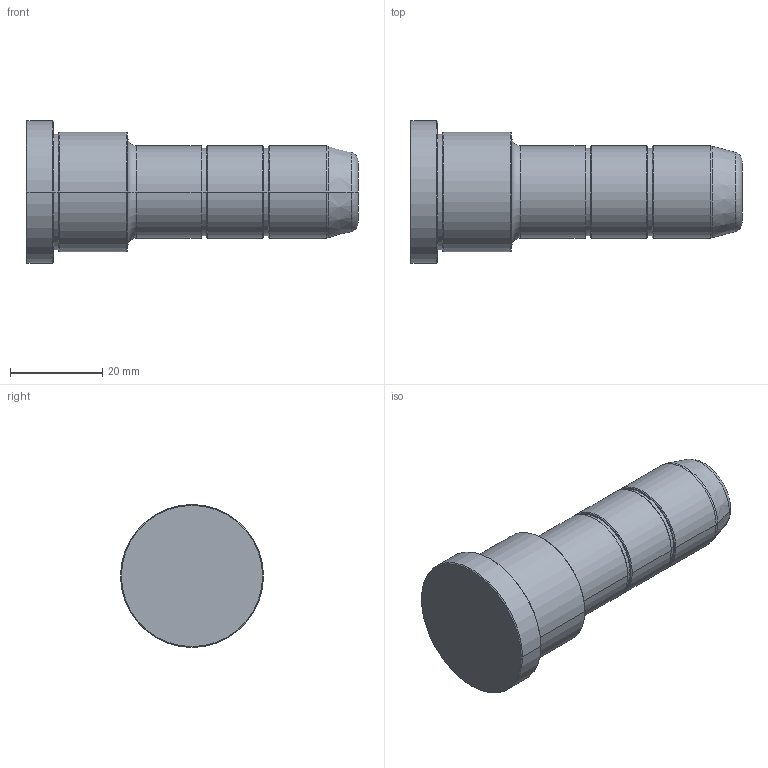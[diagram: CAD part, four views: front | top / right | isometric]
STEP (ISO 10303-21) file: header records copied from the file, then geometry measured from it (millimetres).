
FILE_DESCRIPTION (( 'STEP AP214' ), '1' );
FILE_NAME ('R01_022x20x050.STEP', '2015-03-05T14:03:14', ( 'TGL' ), ( '' ), 'SwSTEP 2.0', 'SolidWorks 2011', '' );
FILE_SCHEMA (( 'AUTOMOTIVE_DESIGN' ));
Length unit declared in the file: millimetre
Products named in the file (1): R01_022x20x050
Bounding box: 72 x 31 x 31 mm (x, y, z)
Volume: 28299.7 mm3; surface area: 6460.8 mm2
Topology: 1 solids, 1 shells, 49 faces, 96 edges, 56 vertices
Faces by surface type: cone 18, cylinder 16, plane 9, torus 6
Entity records: 1426 total; most frequent: DIRECTION 258, CARTESIAN_POINT 202, ORIENTED_EDGE 192, AXIS2_PLACEMENT_3D 112, EDGE_CURVE 96, CIRCLE 62, EDGE_LOOP 56, VERTEX_POINT 56
